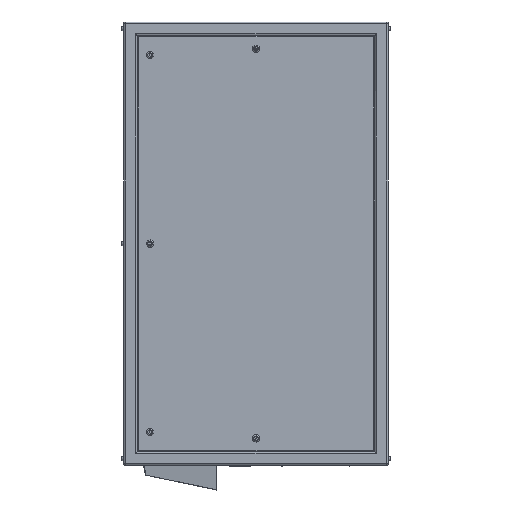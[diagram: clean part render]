
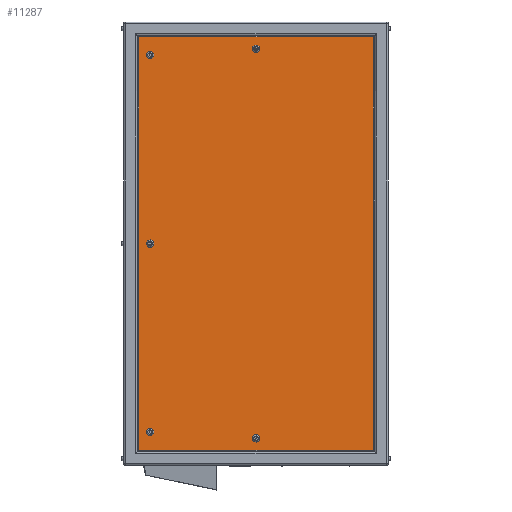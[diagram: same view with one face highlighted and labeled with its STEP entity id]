
A CAD part, left-side view. The second image highlights one B-rep face of the part: STEP entity #11287.
In plain terms, the highlighted planar face has unit normal (-1, 0, 0).
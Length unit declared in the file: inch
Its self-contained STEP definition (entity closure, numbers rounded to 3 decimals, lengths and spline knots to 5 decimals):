
#465 = DIRECTION ( 'NONE',  ( 0., 1., 0. ) ) ;
#780 = VECTOR ( 'NONE', #16901, 39.37008 ) ;
#871 = FACE_BOUND ( 'NONE', #4995, .T. ) ;
#960 = VERTEX_POINT ( 'NONE', #16406 ) ;
#1077 = CARTESIAN_POINT ( 'NONE',  ( -12.5, 0., -28.9 ) ) ;
#1147 = CARTESIAN_POINT ( 'NONE',  ( -12.5, 16., -29.05 ) ) ;
#1184 = DIRECTION ( 'NONE',  ( 1., 0., 0. ) ) ;
#1204 = EDGE_CURVE ( 'NONE', #13695, #6235, #11478, .T. ) ;
#1293 = CARTESIAN_POINT ( 'NONE',  ( -12.5, 16., 0. ) ) ;
#1498 = EDGE_CURVE ( 'NONE', #6878, #23100, #5529, .T. ) ;
#1543 = ORIENTED_EDGE ( 'NONE', *, *, #9546, .T. ) ;
#1643 = DIRECTION ( 'NONE',  ( 0., 0., -1. ) ) ;
#2039 = EDGE_LOOP ( 'NONE', ( #7039, #4770 ) ) ;
#2040 = VECTOR ( 'NONE', #465, 39.37008 ) ;
#2080 = CARTESIAN_POINT ( 'NONE',  ( -12.5, 0., -29.45 ) ) ;
#2282 = CARTESIAN_POINT ( 'NONE',  ( -12.5, 0., -29.45 ) ) ;
#2700 = ORIENTED_EDGE ( 'NONE', *, *, #1498, .T. ) ;
#2733 = FACE_OUTER_BOUND ( 'NONE', #22716, .T. ) ;
#2780 = VERTEX_POINT ( 'NONE', #16043 ) ;
#2822 = DIRECTION ( 'NONE',  ( 1., 0., 0. ) ) ;
#3329 = EDGE_CURVE ( 'NONE', #10118, #960, #17186, .T. ) ;
#3474 = DIRECTION ( 'NONE',  ( 1., 0., 0. ) ) ;
#3855 = DIRECTION ( 'NONE',  ( 0., -1., 0. ) ) ;
#3885 = CARTESIAN_POINT ( 'NONE',  ( -12.5, 0., 29.45 ) ) ;
#4021 = CARTESIAN_POINT ( 'NONE',  ( -12.5, -17.74, -33.5 ) ) ;
#4391 = DIRECTION ( 'NONE',  ( 0., 0., -1. ) ) ;
#4498 = FACE_BOUND ( 'NONE', #17906, .T. ) ;
#4596 = LINE ( 'NONE', #16755, #16312 ) ;
#4770 = ORIENTED_EDGE ( 'NONE', *, *, #19706, .T. ) ;
#4948 = CARTESIAN_POINT ( 'NONE',  ( -12.5, 16., 0. ) ) ;
#4995 = EDGE_LOOP ( 'NONE', ( #21833, #2700 ) ) ;
#5001 = ORIENTED_EDGE ( 'NONE', *, *, #18467, .T. ) ;
#5096 = AXIS2_PLACEMENT_3D ( 'NONE', #11648, #9639, #4391 ) ;
#5310 = DIRECTION ( 'NONE',  ( 1., 0., 0. ) ) ;
#5529 = CIRCLE ( 'NONE', #8522, 0.55 ) ;
#5969 = ORIENTED_EDGE ( 'NONE', *, *, #22670, .T. ) ;
#6060 = ORIENTED_EDGE ( 'NONE', *, *, #3329, .T. ) ;
#6143 = PLANE ( 'NONE',  #5096 ) ;
#6235 = VERTEX_POINT ( 'NONE', #14429 ) ;
#6278 = FACE_BOUND ( 'NONE', #2039, .T. ) ;
#6343 = DIRECTION ( 'NONE',  ( 1., 0., 0. ) ) ;
#6770 = AXIS2_PLACEMENT_3D ( 'NONE', #8343, #1184, #19106 ) ;
#6878 = VERTEX_POINT ( 'NONE', #7857 ) ;
#7039 = ORIENTED_EDGE ( 'NONE', *, *, #9800, .T. ) ;
#7043 = DIRECTION ( 'NONE',  ( 0., 0., 1. ) ) ;
#7120 = CARTESIAN_POINT ( 'NONE',  ( -12.5, -17.74, -31.24 ) ) ;
#7337 = CARTESIAN_POINT ( 'NONE',  ( -12.5, 16., -0.55 ) ) ;
#7522 = LINE ( 'NONE', #16833, #2040 ) ;
#7805 = ORIENTED_EDGE ( 'NONE', *, *, #17670, .T. ) ;
#7857 = CARTESIAN_POINT ( 'NONE',  ( -12.5, 16., -27.95 ) ) ;
#8023 = FACE_BOUND ( 'NONE', #17184, .T. ) ;
#8124 = ORIENTED_EDGE ( 'NONE', *, *, #13985, .T. ) ;
#8195 = CIRCLE ( 'NONE', #11184, 0.55 ) ;
#8216 = DIRECTION ( 'NONE',  ( 1., 0., 0. ) ) ;
#8343 = CARTESIAN_POINT ( 'NONE',  ( -12.5, 16., 28.5 ) ) ;
#8522 = AXIS2_PLACEMENT_3D ( 'NONE', #17320, #15116, #17198 ) ;
#8533 = CARTESIAN_POINT ( 'NONE',  ( -12.5, 17.74, 31.24 ) ) ;
#8675 = VERTEX_POINT ( 'NONE', #16147 ) ;
#8677 = DIRECTION ( 'NONE',  ( 1., 0., 0. ) ) ;
#9260 = CARTESIAN_POINT ( 'NONE',  ( -12.5, 16., 29.05 ) ) ;
#9294 = DIRECTION ( 'NONE',  ( 0., 0., 1. ) ) ;
#9546 = EDGE_CURVE ( 'NONE', #18825, #22165, #13245, .T. ) ;
#9639 = DIRECTION ( 'NONE',  ( 1., 0., 0. ) ) ;
#9800 = EDGE_CURVE ( 'NONE', #13672, #18458, #21045, .T. ) ;
#9943 = DIRECTION ( 'NONE',  ( 0., 0., -1. ) ) ;
#10118 = VERTEX_POINT ( 'NONE', #9260 ) ;
#10159 = DIRECTION ( 'NONE',  ( 0., 0., -1. ) ) ;
#10318 = CIRCLE ( 'NONE', #13709, 0.55 ) ;
#10327 = EDGE_CURVE ( 'NONE', #23100, #6878, #19588, .T. ) ;
#10554 = CARTESIAN_POINT ( 'NONE',  ( -12.5, -17.74, 31.24 ) ) ;
#10949 = DIRECTION ( 'NONE',  ( 0., 0., 1. ) ) ;
#11184 = AXIS2_PLACEMENT_3D ( 'NONE', #22337, #2822, #17088 ) ;
#11287 = ADVANCED_FACE ( 'NONE', ( #6278, #20425, #871, #8023, #4498, #2733 ), #6143, .F. ) ;
#11315 = DIRECTION ( 'NONE',  ( 1., 0., 0. ) ) ;
#11478 = CIRCLE ( 'NONE', #15974, 0.55 ) ;
#11648 = CARTESIAN_POINT ( 'NONE',  ( -12.5, 20., -33.5 ) ) ;
#12395 = EDGE_LOOP ( 'NONE', ( #8124, #5001 ) ) ;
#12658 = CIRCLE ( 'NONE', #13031, 0.55 ) ;
#12974 = DIRECTION ( 'NONE',  ( 0., 0., -1. ) ) ;
#13031 = AXIS2_PLACEMENT_3D ( 'NONE', #18463, #13184, #12974 ) ;
#13184 = DIRECTION ( 'NONE',  ( 1., 0., 0. ) ) ;
#13193 = AXIS2_PLACEMENT_3D ( 'NONE', #2080, #3474, #7043 ) ;
#13245 = LINE ( 'NONE', #4021, #22117 ) ;
#13541 = CARTESIAN_POINT ( 'NONE',  ( -12.5, 17.74, -33.5 ) ) ;
#13672 = VERTEX_POINT ( 'NONE', #17849 ) ;
#13695 = VERTEX_POINT ( 'NONE', #7337 ) ;
#13709 = AXIS2_PLACEMENT_3D ( 'NONE', #3885, #8677, #10159 ) ;
#13800 = LINE ( 'NONE', #13541, #780 ) ;
#13985 = EDGE_CURVE ( 'NONE', #15394, #2780, #10318, .T. ) ;
#14429 = CARTESIAN_POINT ( 'NONE',  ( -12.5, 16., 0.55 ) ) ;
#14574 = ORIENTED_EDGE ( 'NONE', *, *, #1204, .T. ) ;
#14667 = ORIENTED_EDGE ( 'NONE', *, *, #21417, .T. ) ;
#14670 = ORIENTED_EDGE ( 'NONE', *, *, #20260, .T. ) ;
#15116 = DIRECTION ( 'NONE',  ( 1., 0., 0. ) ) ;
#15307 = DIRECTION ( 'NONE',  ( 0., 0., -1. ) ) ;
#15394 = VERTEX_POINT ( 'NONE', #20800 ) ;
#15726 = AXIS2_PLACEMENT_3D ( 'NONE', #2282, #11315, #10949 ) ;
#15974 = AXIS2_PLACEMENT_3D ( 'NONE', #4948, #5310, #1643 ) ;
#16043 = CARTESIAN_POINT ( 'NONE',  ( -12.5, 0., 30. ) ) ;
#16147 = CARTESIAN_POINT ( 'NONE',  ( -12.5, 17.74, -31.24 ) ) ;
#16312 = VECTOR ( 'NONE', #3855, 39.37008 ) ;
#16406 = CARTESIAN_POINT ( 'NONE',  ( -12.5, 16., 27.95 ) ) ;
#16755 = CARTESIAN_POINT ( 'NONE',  ( -12.5, 20., -31.24 ) ) ;
#16819 = CARTESIAN_POINT ( 'NONE',  ( -12.5, 16., -28.5 ) ) ;
#16833 = CARTESIAN_POINT ( 'NONE',  ( -12.5, 20., 31.24 ) ) ;
#16901 = DIRECTION ( 'NONE',  ( 0., 0., -1. ) ) ;
#16943 = AXIS2_PLACEMENT_3D ( 'NONE', #16819, #8216, #15307 ) ;
#17088 = DIRECTION ( 'NONE',  ( 0., 0., -1. ) ) ;
#17184 = EDGE_LOOP ( 'NONE', ( #14574, #14667 ) ) ;
#17186 = CIRCLE ( 'NONE', #6770, 0.55 ) ;
#17198 = DIRECTION ( 'NONE',  ( 0., 0., -1. ) ) ;
#17320 = CARTESIAN_POINT ( 'NONE',  ( -12.5, 16., -28.5 ) ) ;
#17430 = VERTEX_POINT ( 'NONE', #8533 ) ;
#17670 = EDGE_CURVE ( 'NONE', #8675, #18825, #4596, .T. ) ;
#17689 = CIRCLE ( 'NONE', #18080, 0.55 ) ;
#17849 = CARTESIAN_POINT ( 'NONE',  ( -12.5, 0., -30. ) ) ;
#17906 = EDGE_LOOP ( 'NONE', ( #21481, #6060 ) ) ;
#17935 = EDGE_CURVE ( 'NONE', #960, #10118, #12658, .T. ) ;
#18080 = AXIS2_PLACEMENT_3D ( 'NONE', #1293, #6343, #9943 ) ;
#18458 = VERTEX_POINT ( 'NONE', #1077 ) ;
#18463 = CARTESIAN_POINT ( 'NONE',  ( -12.5, 16., 28.5 ) ) ;
#18467 = EDGE_CURVE ( 'NONE', #2780, #15394, #8195, .T. ) ;
#18825 = VERTEX_POINT ( 'NONE', #7120 ) ;
#19106 = DIRECTION ( 'NONE',  ( 0., 0., -1. ) ) ;
#19588 = CIRCLE ( 'NONE', #16943, 0.55 ) ;
#19706 = EDGE_CURVE ( 'NONE', #18458, #13672, #20999, .T. ) ;
#20260 = EDGE_CURVE ( 'NONE', #17430, #8675, #13800, .T. ) ;
#20425 = FACE_BOUND ( 'NONE', #12395, .T. ) ;
#20800 = CARTESIAN_POINT ( 'NONE',  ( -12.5, 0., 28.9 ) ) ;
#20999 = CIRCLE ( 'NONE', #15726, 0.55 ) ;
#21045 = CIRCLE ( 'NONE', #13193, 0.55 ) ;
#21417 = EDGE_CURVE ( 'NONE', #6235, #13695, #17689, .T. ) ;
#21481 = ORIENTED_EDGE ( 'NONE', *, *, #17935, .T. ) ;
#21833 = ORIENTED_EDGE ( 'NONE', *, *, #10327, .T. ) ;
#22117 = VECTOR ( 'NONE', #9294, 39.37008 ) ;
#22165 = VERTEX_POINT ( 'NONE', #10554 ) ;
#22337 = CARTESIAN_POINT ( 'NONE',  ( -12.5, 0., 29.45 ) ) ;
#22670 = EDGE_CURVE ( 'NONE', #22165, #17430, #7522, .T. ) ;
#22716 = EDGE_LOOP ( 'NONE', ( #7805, #1543, #5969, #14670 ) ) ;
#23100 = VERTEX_POINT ( 'NONE', #1147 ) ;
